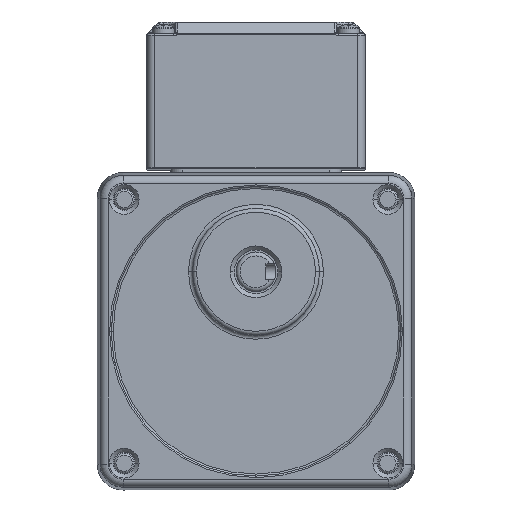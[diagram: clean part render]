
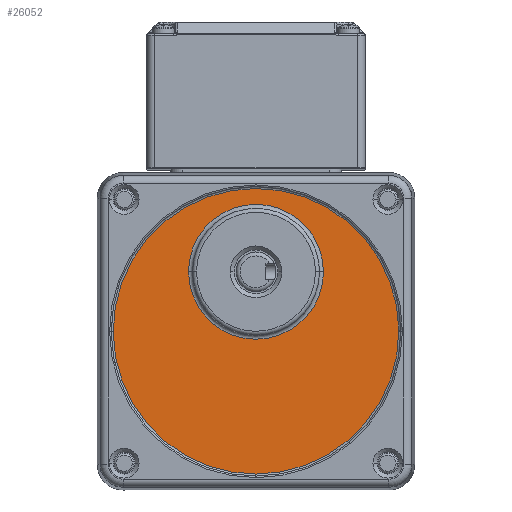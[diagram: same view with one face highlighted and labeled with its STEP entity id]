
A CAD part, front view. The second image highlights one B-rep face of the part: STEP entity #26052.
In plain terms, the highlighted planar face has unit normal (0, -1, 0) as drawn and (0, 0, 1) by its records, which use the part's own axes.
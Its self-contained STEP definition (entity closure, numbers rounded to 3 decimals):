
#24801=CARTESIAN_POINT('',(0.,0.,42.5));
#24802=DIRECTION('',(0.,0.,-1.));
#24803=DIRECTION('',(1.,0.,0.));
#24804=AXIS2_PLACEMENT_3D('',#24801,#24802,#24803);
#24806=CARTESIAN_POINT('',(0.,0.,42.5));
#24807=DIRECTION('',(0.,0.,-1.));
#24808=DIRECTION('',(-1.,-0.008,0.));
#24809=AXIS2_PLACEMENT_3D('',#24806,#24807,#24808);
#24811=CARTESIAN_POINT('',(0.,0.,42.5));
#24812=DIRECTION('',(0.,0.,-1.));
#24813=DIRECTION('',(-1.,0.,0.));
#24814=AXIS2_PLACEMENT_3D('',#24811,#24812,#24813);
#24816=CARTESIAN_POINT('',(0.,-15.,42.5));
#24817=DIRECTION('',(0.,0.,1.));
#24818=DIRECTION('',(-1.,0.,0.));
#24819=AXIS2_PLACEMENT_3D('',#24816,#24817,#24818);
#24821=CARTESIAN_POINT('',(0.,-15.,42.5));
#24822=DIRECTION('',(0.,0.,1.));
#24823=DIRECTION('',(1.,0.,0.));
#24824=AXIS2_PLACEMENT_3D('',#24821,#24822,#24823);
#24826=CARTESIAN_POINT('',(0.,0.,42.5));
#24827=DIRECTION('',(0.,0.,1.));
#24828=DIRECTION('',(1.,0.,0.));
#24829=AXIS2_PLACEMENT_3D('',#24826,#24827,#24828);
#24851=CARTESIAN_POINT('',(0.,-15.,42.5));
#24852=DIRECTION('',(0.,0.,-1.));
#24853=DIRECTION('',(1.,0.,0.));
#24854=AXIS2_PLACEMENT_3D('',#24851,#24852,#24853);
#24856=CARTESIAN_POINT('',(0.,-15.,42.5));
#24857=DIRECTION('',(0.,0.,-1.));
#24858=DIRECTION('',(-1.,0.,0.));
#24859=AXIS2_PLACEMENT_3D('',#24856,#24857,#24858);
#25472=CARTESIAN_POINT('',(35.991,0.,42.5));
#25473=VERTEX_POINT('',#25472);
#25474=CARTESIAN_POINT('',(-35.99,-0.293,42.5));
#25475=CARTESIAN_POINT('',(-35.991,0.,42.5));
#25476=VERTEX_POINT('',#25474);
#25477=VERTEX_POINT('',#25475);
#25478=CARTESIAN_POINT('',(35.99,0.293,42.5));
#25479=VERTEX_POINT('',#25478);
#25480=CARTESIAN_POINT('',(-17.,-15.,42.5));
#25481=CARTESIAN_POINT('',(16.999,-15.222,42.5));
#25482=VERTEX_POINT('',#25480);
#25483=VERTEX_POINT('',#25481);
#25484=CARTESIAN_POINT('',(17.,-15.,42.5));
#25485=VERTEX_POINT('',#25484);
#25486=CARTESIAN_POINT('',(-16.999,-14.778,42.5));
#25487=VERTEX_POINT('',#25486);
#26029=CARTESIAN_POINT('',(0.,0.,42.5));
#26030=DIRECTION('',(0.,0.,1.));
#26031=DIRECTION('',(-1.,0.,0.));
#26032=AXIS2_PLACEMENT_3D('',#26029,#26030,#26031);
#26033=PLANE('',#26032);
#26034=ORIENTED_EDGE('',*,*,#26018,.T.);
#26035=ORIENTED_EDGE('',*,*,#26016,.T.);
#26037=ORIENTED_EDGE('',*,*,#26036,.T.);
#26039=ORIENTED_EDGE('',*,*,#26038,.F.);
#26040=EDGE_LOOP('',(#26034,#26035,#26037,#26039));
#26041=FACE_OUTER_BOUND('',#26040,.F.);
#26043=ORIENTED_EDGE('',*,*,#26042,.T.);
#26045=ORIENTED_EDGE('',*,*,#26044,.F.);
#26047=ORIENTED_EDGE('',*,*,#26046,.T.);
#26049=ORIENTED_EDGE('',*,*,#26048,.F.);
#26050=EDGE_LOOP('',(#26043,#26045,#26047,#26049));
#26051=FACE_BOUND('',#26050,.F.);
#26052=ADVANCED_FACE('',(#26041,#26051),#26033,.T.);
#24805=CIRCLE('',#24804,35.991);
#24810=CIRCLE('',#24809,35.991);
#24815=CIRCLE('',#24814,35.991);
#24820=CIRCLE('',#24819,17.);
#24825=CIRCLE('',#24824,17.);
#24830=CIRCLE('',#24829,35.991);
#24855=CIRCLE('',#24854,17.);
#24860=CIRCLE('',#24859,17.);
#26016=EDGE_CURVE('',#25476,#25477,#24810,.T.);
#26018=EDGE_CURVE('',#25473,#25476,#24805,.T.);
#26036=EDGE_CURVE('',#25477,#25479,#24815,.T.);
#26038=EDGE_CURVE('',#25473,#25479,#24830,.T.);
#26042=EDGE_CURVE('',#25482,#25483,#24820,.T.);
#26044=EDGE_CURVE('',#25485,#25483,#24855,.T.);
#26046=EDGE_CURVE('',#25485,#25487,#24825,.T.);
#26048=EDGE_CURVE('',#25482,#25487,#24860,.T.);
